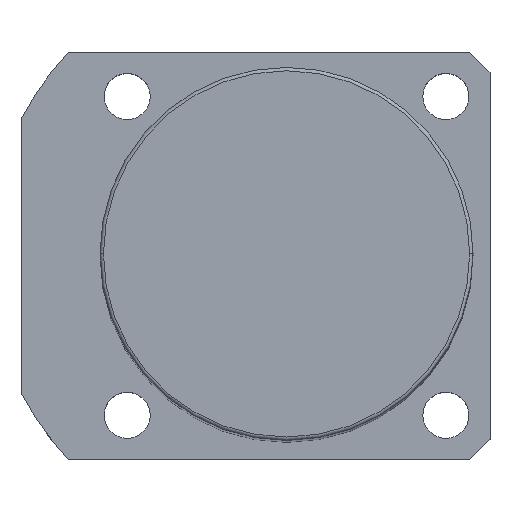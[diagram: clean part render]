
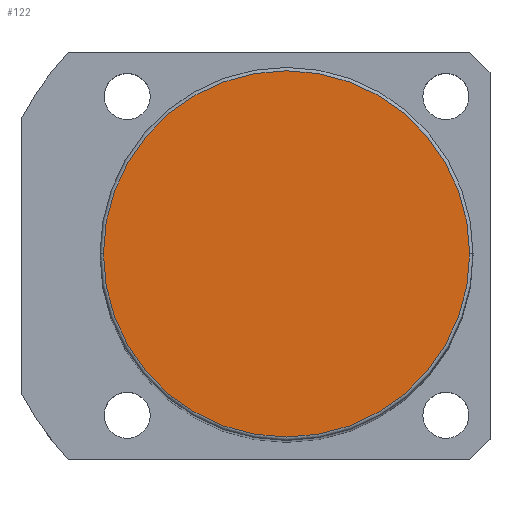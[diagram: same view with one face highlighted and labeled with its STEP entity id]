
A CAD part, top view. The second image highlights one B-rep face of the part: STEP entity #122.
In plain terms, the highlighted planar face has unit normal (0, 0, 1).
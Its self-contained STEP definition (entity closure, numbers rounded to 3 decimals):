
#19 = AXIS2_PLACEMENT_3D ( 'NONE', #415, #1612, #930 ) ;
#74 = AXIS2_PLACEMENT_3D ( 'NONE', #568, #715, #579 ) ;
#83 = PLANE ( 'NONE',  #19 ) ;
#122 = ADVANCED_FACE ( 'NONE', ( #594 ), #83, .T. ) ;
#129 = DIRECTION ( 'NONE',  ( 0., 0., 1. ) ) ;
#338 = VERTEX_POINT ( 'NONE', #2009 ) ;
#415 = CARTESIAN_POINT ( 'NONE',  ( 0., 0., 176. ) ) ;
#568 = CARTESIAN_POINT ( 'NONE',  ( 0., 0., 176. ) ) ;
#575 = EDGE_CURVE ( 'NONE', #1775, #338, #2123, .T. ) ;
#579 = DIRECTION ( 'NONE',  ( 1., 0., 0. ) ) ;
#594 = FACE_OUTER_BOUND ( 'NONE', #1777, .T. ) ;
#636 = DIRECTION ( 'NONE',  ( 1., 0., 0. ) ) ;
#649 = CARTESIAN_POINT ( 'NONE',  ( 0., 0., 176. ) ) ;
#715 = DIRECTION ( 'NONE',  ( 0., 0., 1. ) ) ;
#808 = EDGE_CURVE ( 'NONE', #338, #1775, #1047, .T. ) ;
#930 = DIRECTION ( 'NONE',  ( 1., 0., 0. ) ) ;
#1047 = CIRCLE ( 'NONE', #1927, 27. ) ;
#1322 = ORIENTED_EDGE ( 'NONE', *, *, #808, .T. ) ;
#1481 = ORIENTED_EDGE ( 'NONE', *, *, #575, .T. ) ;
#1612 = DIRECTION ( 'NONE',  ( 0., 0., 1. ) ) ;
#1775 = VERTEX_POINT ( 'NONE', #2095 ) ;
#1777 = EDGE_LOOP ( 'NONE', ( #1481, #1322 ) ) ;
#1927 = AXIS2_PLACEMENT_3D ( 'NONE', #649, #129, #636 ) ;
#2009 = CARTESIAN_POINT ( 'NONE',  ( -27., 0., 176. ) ) ;
#2095 = CARTESIAN_POINT ( 'NONE',  ( 27., 0., 176. ) ) ;
#2123 = CIRCLE ( 'NONE', #74, 27. ) ;
